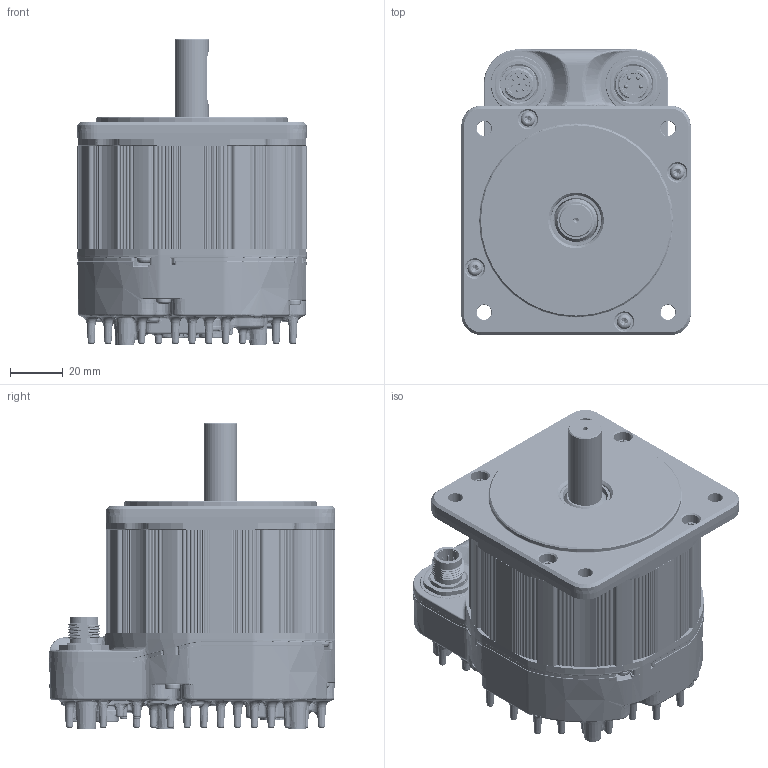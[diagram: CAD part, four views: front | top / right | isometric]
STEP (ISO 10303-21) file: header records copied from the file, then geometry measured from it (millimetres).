
FILE_DESCRIPTION (( 'STEP AP214' ), '1' );
FILE_NAME ('CPMS 341x.STEP', '2023-08-08T19:46:32', ( '' ), ( '' ), 'SwSTEP 2.0', 'SolidWorks 2020', '' );
FILE_SCHEMA (( 'AUTOMOTIVE_DESIGN' ));
Length unit declared in the file: inch
Products named in the file (1): CPMS 341x
Bounding box: 86.87 x 108.59 x 116.16 mm (x, y, z)
Volume: 258010.6 mm3; surface area: 165375.2 mm2
Topology: 33 solids, 41 shells, 10864 faces, 27443 edges, 16325 vertices
Faces by surface type: cylinder 4012, bspline 2739, torus 1384, plane 1353, cone 1287, sphere 89
Entity records: 802258 total; most frequent: CARTESIAN_POINT 429375, ORIENTED_EDGE 53748, DIRECTION 42312, EDGE_CURVE 26874, AXIS2_PLACEMENT_3D 17482, VERTEX_POINT 16314, EDGE_LOOP 11474, DIMENSIONAL_EXPONENTS 10891
